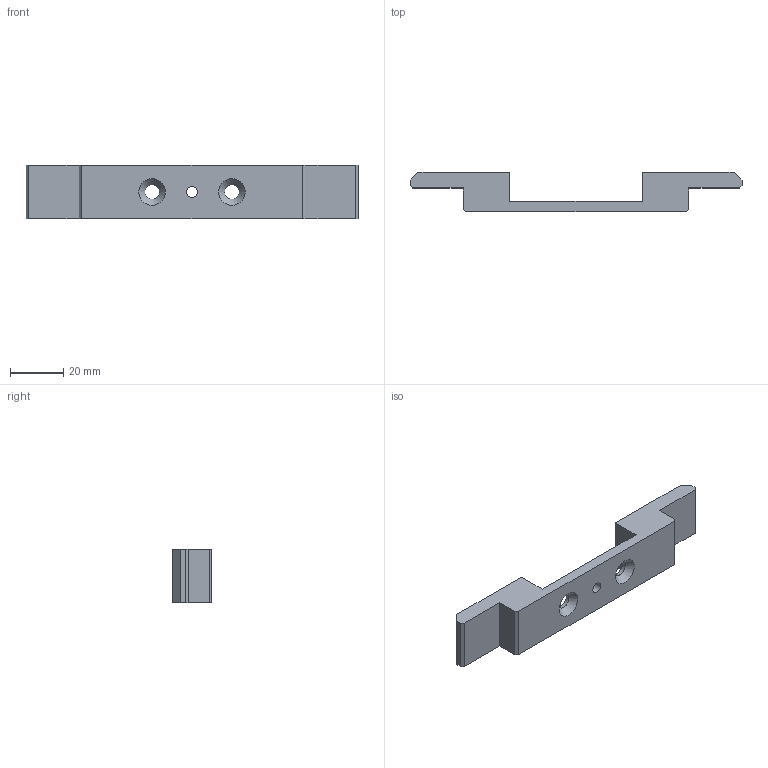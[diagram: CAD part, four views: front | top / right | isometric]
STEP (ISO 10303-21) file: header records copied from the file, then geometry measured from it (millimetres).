
FILE_DESCRIPTION( ( 'Unknown' ), '1' );
FILE_NAME( 'F:/navkite transat/construction/2016/3D ET ASSEMBLAGES/desal/DES 07.stp', 'Unknown', ( 'GMA' ), ( 'Unknown' ), 'XStep 1.0', 'Unknown', ' ' );
FILE_SCHEMA( ( 'automotive_design' ) );
Length unit declared in the file: millimetre
Products named in the file (1): 1
Bounding box: 125 x 15 x 20 mm (x, y, z)
Volume: 18708.2 mm3; surface area: 7867.1 mm2
Topology: 1 solids, 1 shells, 25 faces, 70 edges, 47 vertices
Faces by surface type: plane 20, cylinder 3, cone 2
Full cylindrical faces by diameter (mm): 4.134 x1, 5.5 x2
Entity records: 976 total; most frequent: CARTESIAN_POINT 132, ORIENTED_EDGE 124, DIRECTION 122, EDGE_CURVE 62, LINE 54, VECTOR 54, VERTEX_POINT 44, EDGE_LOOP 36
